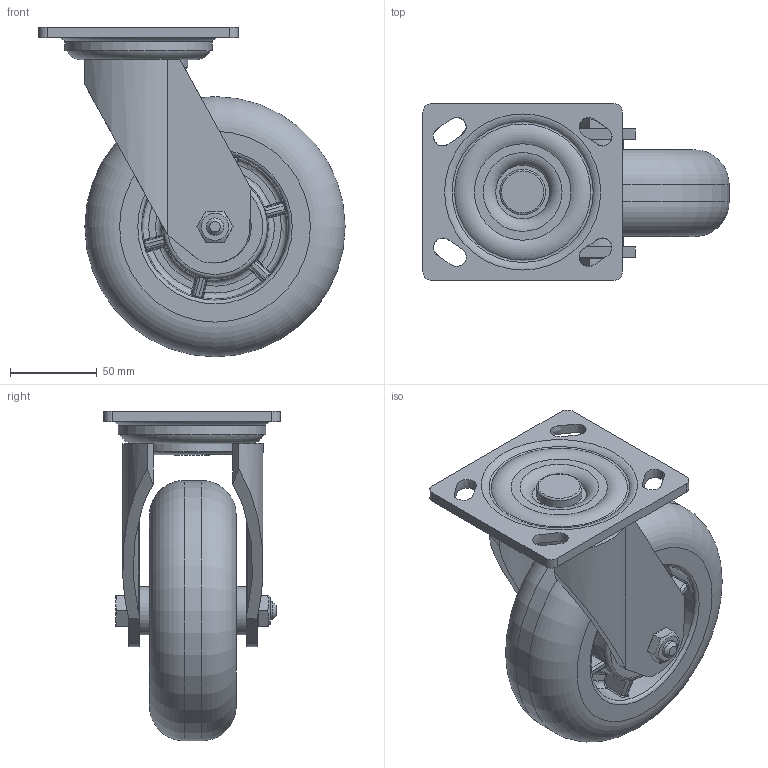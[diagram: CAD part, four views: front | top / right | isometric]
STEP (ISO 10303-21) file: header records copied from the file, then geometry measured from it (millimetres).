
FILE_DESCRIPTION(/* description */ (''),/* implementation_level */ '2;1');
FILE_NAME(/* name */ '35D07_6_F.stp',/* time_stamp */ '2022-10-17T13:55:39+08:00',/* author */ (''),/* organization */ (''),/* preprocessor_version */ 'ST-DEVELOPER v14',/* originating_system */ 'SIEMENS PLM Software NX 8.0',/* authorisation */ '');
FILE_SCHEMA (('AUTOMOTIVE_DESIGN { 1 0 10303 214 3 1 1 1 }'));
Length unit declared in the file: millimetre
Products named in the file (1): 35D07_6_F
Bounding box: 176.5 x 102 x 190 mm (x, y, z)
Volume: 888168.9 mm3; surface area: 170185.8 mm2
Topology: 1 solids, 1 shells, 953 faces, 2640 edges, 1667 vertices
Faces by surface type: plane 396, cylinder 202, bspline 194, torus 70, sphere 49, cone 38, extrusion 4
Full cylindrical faces by diameter (mm): 10.104 x2, 12 x1, 12.3 x2, 15 x1, 17 x2, 18 x1, 20.5 x2, 22.276 x1, 24.188 x4, 26.256 x1, 28 x2, 32.812 x2, 39.85 x2, 40 x2, 57 x1, 85 x1, 150 x1
Entity records: 48568 total; most frequent: CARTESIAN_POINT 27063, ORIENTED_EDGE 4744, DIRECTION 4119, EDGE_CURVE 2372, AXIS2_PLACEMENT_3D 1791, VERTEX_POINT 1527, EDGE_LOOP 1157, CIRCLE 1018
